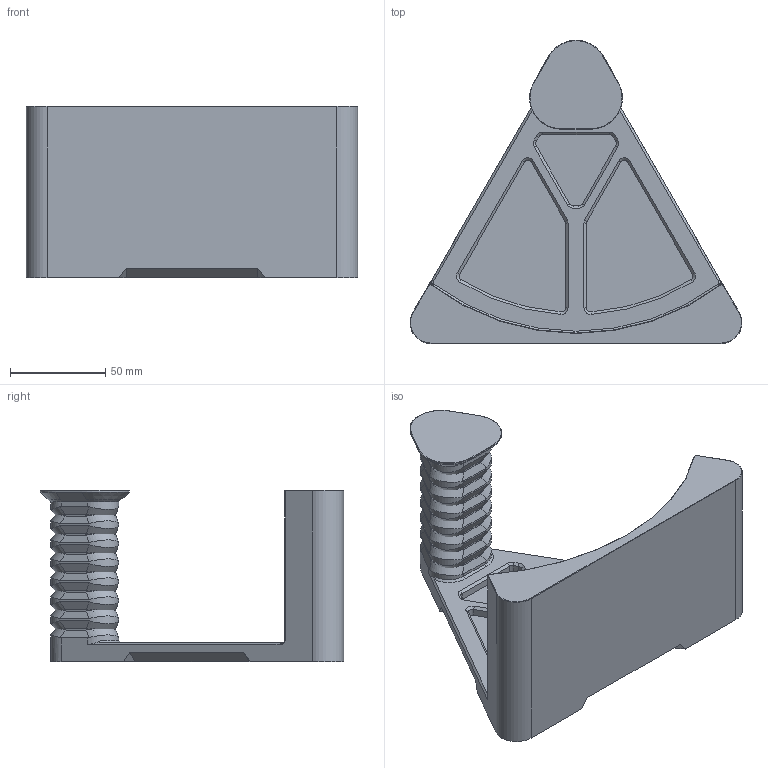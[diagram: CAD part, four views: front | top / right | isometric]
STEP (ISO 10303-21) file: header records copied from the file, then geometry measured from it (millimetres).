
FILE_DESCRIPTION(/* description */ (''),/* implementation_level */ '2;1');
FILE_NAME(/* name */ 'Triangle_Spoolholder v14.step',/* time_stamp */ '2023-10-12T21:27:25+09:00',/* author */ (''),/* organization */ (''),/* preprocessor_version */ 'ST-DEVELOPER v20',/* originating_system */ 'Autodesk Translation Framework v12.14.0.127',/* authorisation */ '');
FILE_SCHEMA (('AUTOMOTIVE_DESIGN { 1 0 10303 214 3 1 1 }'));
Length unit declared in the file: millimetre
Products named in the file (1): Triangle_Spoolholder
Bounding box: 174.42 x 159.5 x 90 mm (x, y, z)
Volume: 397174.4 mm3; surface area: 81880 mm2
Topology: 1 solids, 1 shells, 360 faces, 966 edges, 612 vertices
Faces by surface type: plane 160, cylinder 109, bspline 57, cone 34
Entity records: 11458 total; most frequent: CARTESIAN_POINT 3280, ORIENTED_EDGE 1764, DIRECTION 1708, EDGE_CURVE 882, AXIS2_PLACEMENT_3D 606, VERTEX_POINT 570, LINE 496, VECTOR 496
